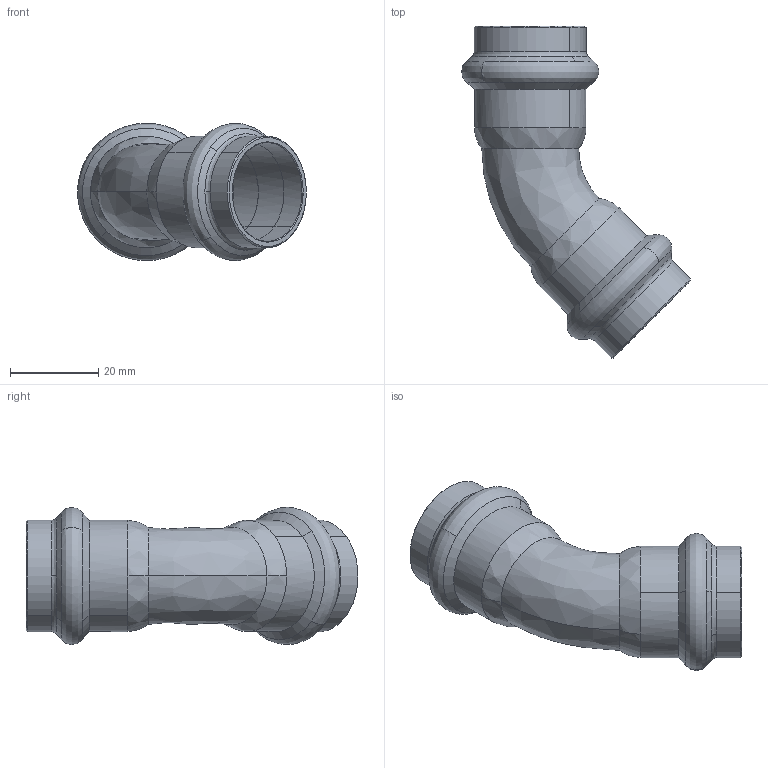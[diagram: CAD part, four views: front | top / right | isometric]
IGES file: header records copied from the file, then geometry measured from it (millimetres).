
Start section: Elysium IGES Interface
Global section: file name: C:\Users\Wallenburg\Desktop\3d modellen sudo\S-Pr VP\SP6041V\6041VW22.igs; native system: CoCreate Modeling 17.00A  17-Jun-2010; preprocessor: CoCreate IGES_3D V2.2; author: Unknown; organization: Unknown; date: 20130115.163259; units: millimetre
Bounding box: 51.95 x 75.39 x 31.18 mm (x, y, z)
Volume: 11153.4 mm3; surface area: 12242.1 mm2
Topology: 1 solids, 1 shells, 74 faces, 186 edges, 116 vertices
Faces by surface type: bspline 74
